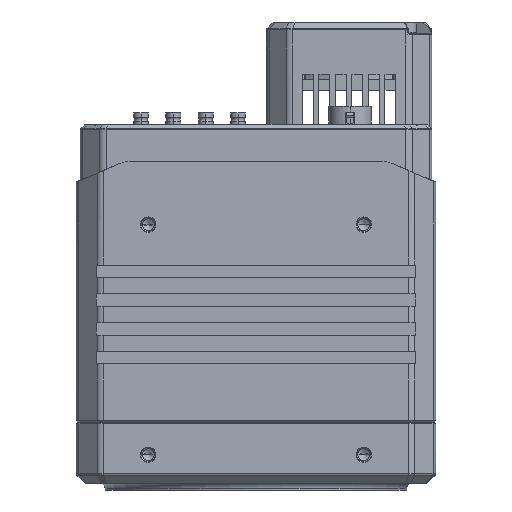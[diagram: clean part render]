
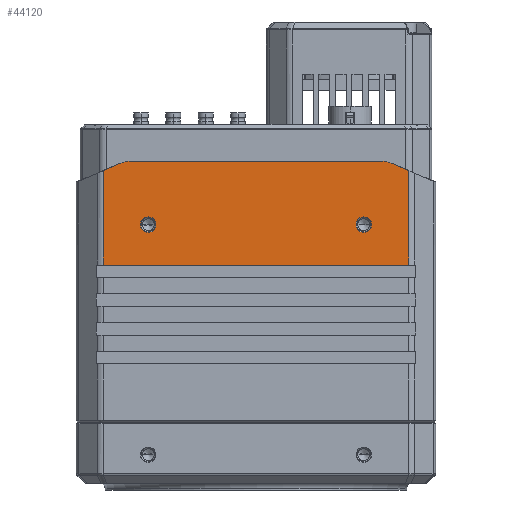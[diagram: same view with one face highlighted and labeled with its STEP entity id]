
A CAD part, front view. The second image highlights one B-rep face of the part: STEP entity #44120.
In plain terms, the highlighted planar face has unit normal (0, -1, 0).
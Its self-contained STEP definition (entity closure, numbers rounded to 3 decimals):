
#1722=CARTESIAN_POINT('',(7.536,0.,87.106));
#1802=CARTESIAN_POINT('',(92.464,0.,87.106));
#1811=DIRECTION('',(-1.,0.,0.));
#1812=VECTOR('',#1811,84.929);
#1813=CARTESIAN_POINT('',(92.464,0.,60.8));
#1814=LINE('',#1813,#1812);
#1815=DIRECTION('',(0.,0.,1.));
#1816=VECTOR('',#1815,26.306);
#1817=CARTESIAN_POINT('',(7.536,0.,60.8));
#1818=LINE('',#1817,#1816);
#1819=DIRECTION('',(0.921,0.,0.391));
#1820=VECTOR('',#1819,5.29);
#1821=CARTESIAN_POINT('',(7.536,0.,87.106));
#1822=LINE('',#1821,#1820);
#1823=CARTESIAN_POINT('',(14.749,0.,83.65));
#1824=DIRECTION('',(0.,1.,0.));
#1825=DIRECTION('',(-0.391,0.,0.921));
#1826=AXIS2_PLACEMENT_3D('',#1823,#1824,#1825);
#1828=CARTESIAN_POINT('',(85.251,0.,83.65));
#1829=DIRECTION('',(0.,1.,0.));
#1830=DIRECTION('',(0.,0.,1.));
#1831=AXIS2_PLACEMENT_3D('',#1828,#1829,#1830);
#1833=DIRECTION('',(0.921,0.,-0.391));
#1834=VECTOR('',#1833,5.29);
#1835=CARTESIAN_POINT('',(87.595,0.,89.173));
#1836=LINE('',#1835,#1834);
#1837=DIRECTION('',(0.,0.,-1.));
#1838=VECTOR('',#1837,26.306);
#1839=CARTESIAN_POINT('',(92.464,0.,87.106));
#1840=LINE('',#1839,#1838);
#1841=CARTESIAN_POINT('',(20.,0.,72.05));
#1842=DIRECTION('',(0.,-1.,0.));
#1843=DIRECTION('',(0.,0.,-1.));
#1844=AXIS2_PLACEMENT_3D('',#1841,#1842,#1843);
#1846=CARTESIAN_POINT('',(20.,0.,72.05));
#1847=DIRECTION('',(0.,-1.,0.));
#1848=DIRECTION('',(0.,0.,1.));
#1849=AXIS2_PLACEMENT_3D('',#1846,#1847,#1848);
#1851=CARTESIAN_POINT('',(80.,0.,72.05));
#1852=DIRECTION('',(0.,-1.,0.));
#1853=DIRECTION('',(0.,0.,-1.));
#1854=AXIS2_PLACEMENT_3D('',#1851,#1852,#1853);
#1856=CARTESIAN_POINT('',(80.,0.,72.05));
#1857=DIRECTION('',(0.,-1.,0.));
#1858=DIRECTION('',(0.,0.,1.));
#1859=AXIS2_PLACEMENT_3D('',#1856,#1857,#1858);
#1865=DIRECTION('',(-1.,0.,0.));
#1866=VECTOR('',#1865,70.502);
#1867=CARTESIAN_POINT('',(85.251,0.,89.65));
#1868=LINE('',#1867,#1866);
#33659=VERTEX_POINT('',#1722);
#33899=CARTESIAN_POINT('',(7.536,0.,
60.8));
#33900=VERTEX_POINT('',#33899);
#33903=CARTESIAN_POINT('',(92.464,0.,
60.8));
#33905=VERTEX_POINT('',#33903);
#33931=VERTEX_POINT('',#1802);
#33947=CARTESIAN_POINT('',(12.405,0.,
89.173));
#33948=VERTEX_POINT('',#33947);
#33949=CARTESIAN_POINT('',(14.749,0.,
89.65));
#33950=VERTEX_POINT('',#33949);
#33951=CARTESIAN_POINT('',(85.251,0.,
89.65));
#33952=CARTESIAN_POINT('',(87.595,0.,
89.173));
#33953=VERTEX_POINT('',#33951);
#33954=VERTEX_POINT('',#33952);
#33955=CARTESIAN_POINT('',(20.,0.,69.9));
#33956=CARTESIAN_POINT('',(20.,0.,74.2));
#33957=VERTEX_POINT('',#33955);
#33958=VERTEX_POINT('',#33956);
#33959=CARTESIAN_POINT('',(80.,0.,69.9));
#33960=CARTESIAN_POINT('',(80.,0.,74.2));
#33961=VERTEX_POINT('',#33959);
#33962=VERTEX_POINT('',#33960);
#44090=CARTESIAN_POINT('',(50.,0.,75.225));
#44091=DIRECTION('',(0.,1.,0.));
#44092=DIRECTION('',(1.,0.,0.));
#44093=AXIS2_PLACEMENT_3D('',#44090,#44091,#44092);
#44094=PLANE('',#44093);
#44095=ORIENTED_EDGE('',*,*,#43902,.T.);
#44096=ORIENTED_EDGE('',*,*,#43888,.T.);
#44097=ORIENTED_EDGE('',*,*,#43530,.T.);
#44099=ORIENTED_EDGE('',*,*,#44098,.T.);
#44101=ORIENTED_EDGE('',*,*,#44100,.F.);
#44103=ORIENTED_EDGE('',*,*,#44102,.T.);
#44104=ORIENTED_EDGE('',*,*,#44039,.T.);
#44105=ORIENTED_EDGE('',*,*,#44083,.T.);
#44106=EDGE_LOOP('',(#44095,#44096,#44097,#44099,#44101,#44103,#44104,#44105));
#44107=FACE_OUTER_BOUND('',#44106,.F.);
#44109=ORIENTED_EDGE('',*,*,#44108,.T.);
#44111=ORIENTED_EDGE('',*,*,#44110,.T.);
#44112=EDGE_LOOP('',(#44109,#44111));
#44113=FACE_BOUND('',#44112,.F.);
#44115=ORIENTED_EDGE('',*,*,#44114,.T.);
#44117=ORIENTED_EDGE('',*,*,#44116,.T.);
#44118=EDGE_LOOP('',(#44115,#44117));
#44119=FACE_BOUND('',#44118,.F.);
#44120=ADVANCED_FACE('',(#44107,#44113,#44119),#44094,.F.);
#1827=CIRCLE('',#1826,6.);
#1832=CIRCLE('',#1831,6.);
#1845=CIRCLE('',#1844,2.15);
#1850=CIRCLE('',#1849,2.15);
#1855=CIRCLE('',#1854,2.15);
#1860=CIRCLE('',#1859,2.15);
#43530=EDGE_CURVE('',#33659,#33948,#1822,.T.);
#43888=EDGE_CURVE('',#33900,#33659,#1818,.T.);
#43902=EDGE_CURVE('',#33905,#33900,#1814,.T.);
#44039=EDGE_CURVE('',#33954,#33931,#1836,.T.);
#44083=EDGE_CURVE('',#33931,#33905,#1840,.T.);
#44098=EDGE_CURVE('',#33948,#33950,#1827,.T.);
#44100=EDGE_CURVE('',#33953,#33950,#1868,.T.);
#44102=EDGE_CURVE('',#33953,#33954,#1832,.T.);
#44108=EDGE_CURVE('',#33957,#33958,#1845,.T.);
#44110=EDGE_CURVE('',#33958,#33957,#1850,.T.);
#44114=EDGE_CURVE('',#33961,#33962,#1855,.T.);
#44116=EDGE_CURVE('',#33962,#33961,#1860,.T.);
